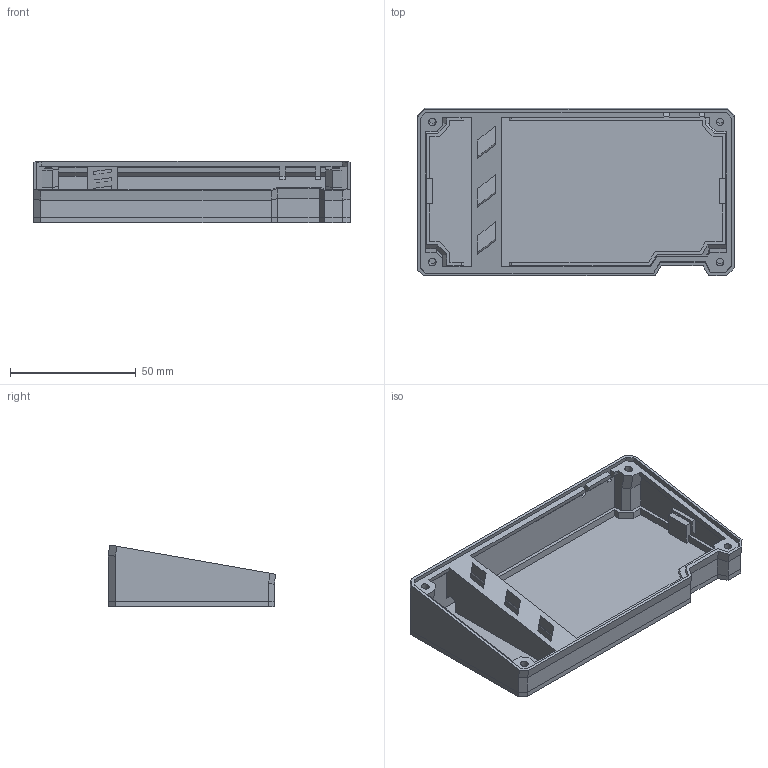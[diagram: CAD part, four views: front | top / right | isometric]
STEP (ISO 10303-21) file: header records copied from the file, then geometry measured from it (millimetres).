
FILE_DESCRIPTION(/* description */ (''),/* implementation_level */ '2;1');
FILE_NAME(/* name */ 'Boitier Fermer Macropad.step',/* time_stamp */ '2025-12-14T23:19:50+01:00',/* author */ (''),/* organization */ (''),/* preprocessor_version */ 'ST-DEVELOPER v20.1',/* originating_system */ 'Autodesk Translation Framework v14.21.0.0',/* authorisation */ '');
FILE_SCHEMA (('AUTOMOTIVE_DESIGN { 1 0 10303 214 3 1 1 }'));
Length unit declared in the file: millimetre
Products named in the file (3): Coque/BoitierFermer v2; BoiteDessus; Dessous
Assembly tree (2 placements, depth 2):
  Coque/BoitierFermer v2
    BoiteDessus
    Dessous
Bounding box: 125.76 x 66.64 x 24.57 mm (x, y, z)
Volume: 38568.6 mm3; surface area: 38839.6 mm2
Topology: 2 solids, 3 shells, 285 faces, 770 edges, 496 vertices
Faces by surface type: plane 261, cylinder 23, bspline 1
Full cylindrical faces by diameter (mm): 3 x4
Entity records: 8883 total; most frequent: CARTESIAN_POINT 1577, ORIENTED_EDGE 1538, DIRECTION 1400, EDGE_CURVE 769, LINE 716, VECTOR 716, VERTEX_POINT 496, AXIS2_PLACEMENT_3D 342
